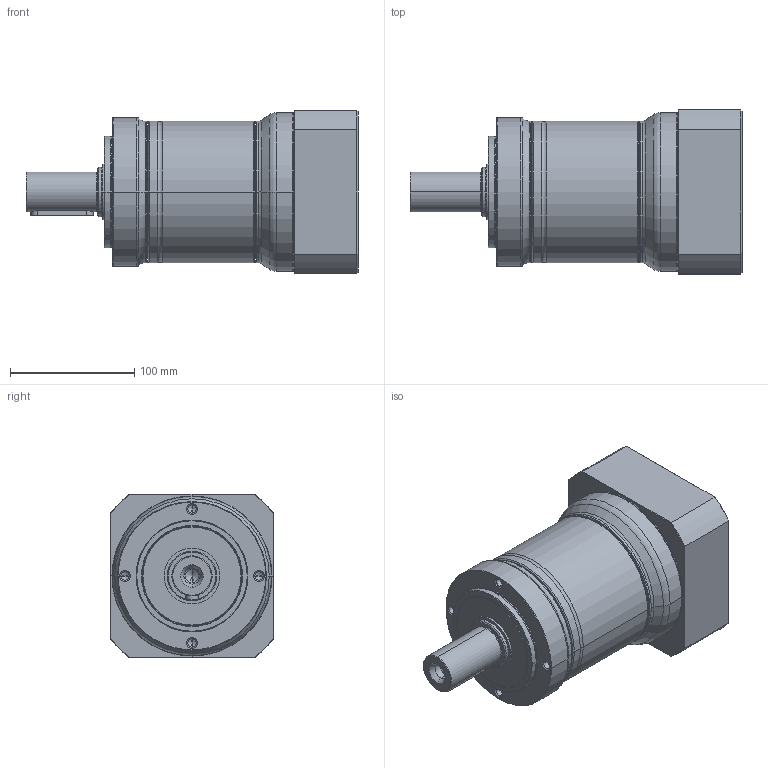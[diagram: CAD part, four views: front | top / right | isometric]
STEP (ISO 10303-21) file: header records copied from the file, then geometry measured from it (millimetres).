
FILE_DESCRIPTION((''),'2;1');
FILE_NAME('PE2-120_2ST_35-P0411800101_ASM','2017-06-03T',('d01943'),(''),'PRO/ENGINEER BY PARAMETRIC TECHNOLOGY CORPORATION, 2008410','PRO/ENGINEER BY PARAMETRIC TECHNOLOGY CORPORATION, 2008410','');
FILE_SCHEMA(('CONFIG_CONTROL_DESIGN'));
Length unit declared in the file: millimetre
Products named in the file (9): P1323410001; P0251400001; P1324400401; P0350401001; P0941404001; P0503800010; P0411800101; P1702600001; PE2-120_2ST_35-P0411800101_ASM
Assembly tree (8 placements, depth 2):
  PE2-120_2ST_35-P0411800101_ASM
    P1323410001
    P0251400001
    P1324400401
    P0350401001
    P0941404001
    P0503800010
    P0411800101
    P1702600001
Bounding box: 267.5 x 132 x 132 mm (x, y, z)
Volume: 1672219.4 mm3; surface area: 291803.9 mm2
Topology: 8 solids, 8 shells, 480 faces, 1049 edges, 600 vertices
Faces by surface type: cone 142, cylinder 142, torus 102, plane 78, bspline 16
Entity records: 17755 total; most frequent: CARTESIAN_POINT 7004, DIRECTION 2457, ORIENTED_EDGE 2034, AXIS2_PLACEMENT_3D 1056, EDGE_CURVE 1017, VERTEX_POINT 600, CIRCLE 575, EDGE_LOOP 543
